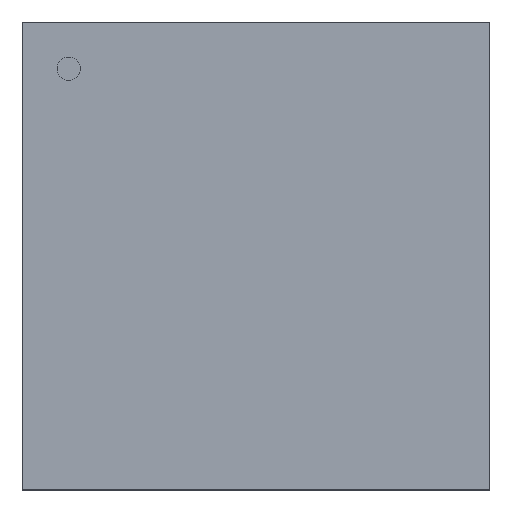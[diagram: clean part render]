
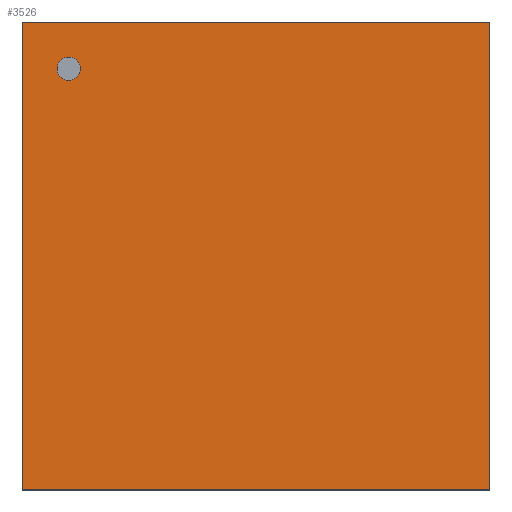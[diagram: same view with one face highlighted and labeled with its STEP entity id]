
A CAD part, top view. The second image highlights one B-rep face of the part: STEP entity #3526.
In plain terms, the highlighted planar face has unit normal (0, 0, 1).
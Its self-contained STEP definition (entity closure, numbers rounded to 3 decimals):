
#3302=CARTESIAN_POINT('',(8.052,-8.052,0.94));
#3301=VERTEX_POINT('',#3302);
#3312=CARTESIAN_POINT('',(-8.052,-8.052,0.94));
#3311=VERTEX_POINT('',#3312);
#3310=EDGE_CURVE('',#3311,#3301,#3315,.T.);
#3315=LINE('',#3312,#3317);
#3317=VECTOR('',#3318,16.104);
#3318=DIRECTION('',(1.0,0.0,0.0));
#3351=CARTESIAN_POINT('',(8.052,8.052,0.94));
#3350=VERTEX_POINT('',#3351);
#3359=EDGE_CURVE('',#3301,#3350,#3364,.T.);
#3364=LINE('',#3302,#3366);
#3366=VECTOR('',#3367,16.104);
#3367=DIRECTION('',(0.0,1.0,0.0));
#3400=CARTESIAN_POINT('',(-8.052,8.052,0.94));
#3399=VERTEX_POINT('',#3400);
#3408=EDGE_CURVE('',#3350,#3399,#3413,.T.);
#3413=LINE('',#3351,#3415);
#3415=VECTOR('',#3416,16.104);
#3416=DIRECTION('',(-1.0,0.0,0.0));
#3457=EDGE_CURVE('',#3399,#3311,#3462,.T.);
#3462=LINE('',#3400,#3464);
#3464=VECTOR('',#3465,16.104);
#3465=DIRECTION('',(0.0,-1.0,0.0));
#3526=ADVANCED_FACE('',(#3532),#3527,.T.);
#3527=PLANE('',#3528);
#3528=AXIS2_PLACEMENT_3D('',#3529,#3530,#3531);
#3529=CARTESIAN_POINT('',(-8.052,-8.052,0.94));
#3530=DIRECTION('',(0.0,0.0,1.0));
#3531=DIRECTION('',(0.,1.,0.));
#3532=FACE_OUTER_BOUND('',#3533,.T.);
#3533=EDGE_LOOP('',(#3534,#3544,#3554,#3564));
#3534=ORIENTED_EDGE('',*,*,#3310,.T.);
#3544=ORIENTED_EDGE('',*,*,#3359,.T.);
#3554=ORIENTED_EDGE('',*,*,#3408,.T.);
#3564=ORIENTED_EDGE('',*,*,#3457,.T.);
